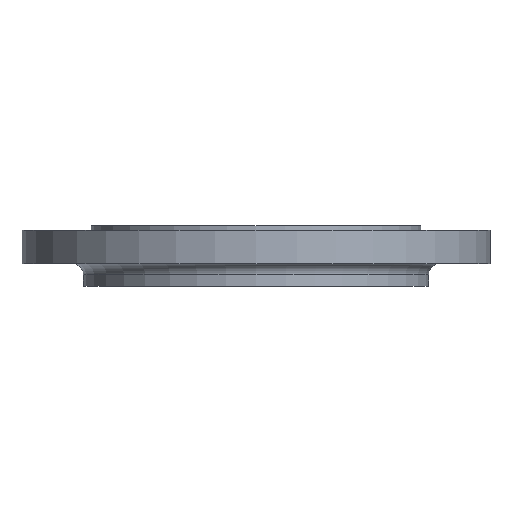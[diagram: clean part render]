
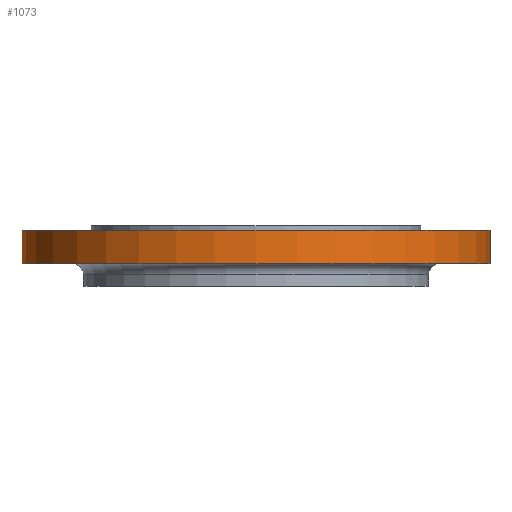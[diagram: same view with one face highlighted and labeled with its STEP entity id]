
A CAD part, front view. The second image highlights one B-rep face of the part: STEP entity #1073.
In plain terms, the highlighted cylindrical face has radius 257.5 mm (diameter 515 mm), a partial arc.
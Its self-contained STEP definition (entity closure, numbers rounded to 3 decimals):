
#57 = DIRECTION ( 'NONE',  ( 0., 0., 1. ) ) ;
#58 = CARTESIAN_POINT ( 'NONE',  ( 257.5, 0., -125. ) ) ;
#60 = LINE ( 'NONE', #58, #499 ) ;
#150 = CIRCLE ( 'NONE', #210, 257.5 ) ;
#210 = AXIS2_PLACEMENT_3D ( 'NONE', #699, #698, #696 ) ;
#233 = DIRECTION ( 'NONE',  ( 0., 0., 1. ) ) ;
#234 = CARTESIAN_POINT ( 'NONE',  ( -257.5, 0., -125. ) ) ;
#235 = LINE ( 'NONE', #234, #272 ) ;
#272 = VECTOR ( 'NONE', #233, 1000. ) ;
#388 = CARTESIAN_POINT ( 'NONE',  ( 257.5, 0., -5. ) ) ;
#420 = AXIS2_PLACEMENT_3D ( 'NONE', #707, #706, #705 ) ;
#449 = CARTESIAN_POINT ( 'NONE',  ( 257.5, 0., -42. ) ) ;
#472 = CARTESIAN_POINT ( 'NONE',  ( -257.5, 0., -5. ) ) ;
#484 = DIRECTION ( 'NONE',  ( 1., 0., 0. ) ) ;
#485 = DIRECTION ( 'NONE',  ( 0., 0., 1. ) ) ;
#486 = CARTESIAN_POINT ( 'NONE',  ( 0., 0., -125. ) ) ;
#487 = CYLINDRICAL_SURFACE ( 'NONE', #1138, 257.5 ) ;
#488 = FACE_OUTER_BOUND ( 'NONE', #963, .T. ) ;
#499 = VECTOR ( 'NONE', #57, 1000. ) ;
#553 = CARTESIAN_POINT ( 'NONE',  ( -257.5, 0., -42. ) ) ;
#579 = CIRCLE ( 'NONE', #420, 257.5 ) ;
#636 = EDGE_CURVE ( 'NONE', #1235, #1100, #579, .T. ) ;
#654 = EDGE_CURVE ( 'NONE', #953, #1147, #150, .T. ) ;
#696 = DIRECTION ( 'NONE',  ( 1., 0., 0. ) ) ;
#698 = DIRECTION ( 'NONE',  ( 0., 0., 1. ) ) ;
#699 = CARTESIAN_POINT ( 'NONE',  ( 0., 0., -42. ) ) ;
#705 = DIRECTION ( 'NONE',  ( -1., 0., 0. ) ) ;
#706 = DIRECTION ( 'NONE',  ( 0., 0., -1. ) ) ;
#707 = CARTESIAN_POINT ( 'NONE',  ( 0., 0., -5. ) ) ;
#953 = VERTEX_POINT ( 'NONE', #553 ) ;
#963 = EDGE_LOOP ( 'NONE', ( #1512, #1513, #1518, #1519 ) ) ;
#1073 = ADVANCED_FACE ( 'NONE', ( #488 ), #487, .T. ) ;
#1100 = VERTEX_POINT ( 'NONE', #472 ) ;
#1138 = AXIS2_PLACEMENT_3D ( 'NONE', #486, #485, #484 ) ;
#1147 = VERTEX_POINT ( 'NONE', #449 ) ;
#1235 = VERTEX_POINT ( 'NONE', #388 ) ;
#1475 = EDGE_CURVE ( 'NONE', #953, #1100, #235, .T. ) ;
#1512 = ORIENTED_EDGE ( 'NONE', *, *, #1475, .F. ) ;
#1513 = ORIENTED_EDGE ( 'NONE', *, *, #654, .T. ) ;
#1518 = ORIENTED_EDGE ( 'NONE', *, *, #1620, .T. ) ;
#1519 = ORIENTED_EDGE ( 'NONE', *, *, #636, .T. ) ;
#1620 = EDGE_CURVE ( 'NONE', #1147, #1235, #60, .T. ) ;
